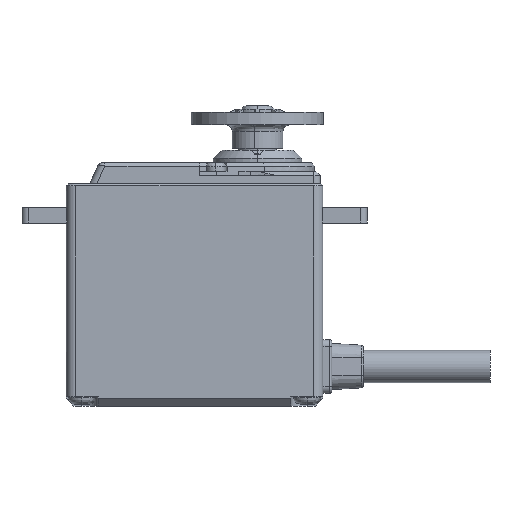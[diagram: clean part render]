
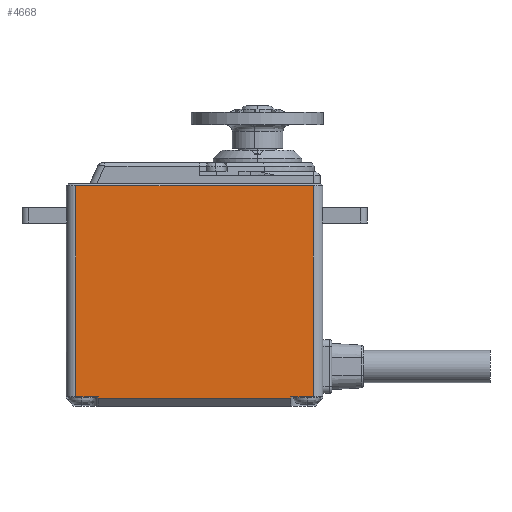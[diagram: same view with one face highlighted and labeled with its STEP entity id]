
A CAD part, left-side view. The second image highlights one B-rep face of the part: STEP entity #4668.
In plain terms, the highlighted planar face has unit normal (-1, 0, 0).
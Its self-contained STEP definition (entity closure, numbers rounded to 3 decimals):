
#241 = VECTOR ( 'NONE', #7130, 1000. ) ;
#415 = DIRECTION ( 'NONE',  ( 0., 0., -1. ) ) ;
#814 = VERTEX_POINT ( 'NONE', #981 ) ;
#897 = CARTESIAN_POINT ( 'NONE',  ( -10.5, 25.15, -38.4 ) ) ;
#981 = CARTESIAN_POINT ( 'NONE',  ( -10.5, -8.8, -36.9 ) ) ;
#1139 = VECTOR ( 'NONE', #415, 1000. ) ;
#1413 = LINE ( 'NONE', #3303, #1139 ) ;
#1519 = ORIENTED_EDGE ( 'NONE', *, *, #1647, .T. ) ;
#1574 = ORIENTED_EDGE ( 'NONE', *, *, #2165, .T. ) ;
#1647 = EDGE_CURVE ( 'NONE', #5285, #6346, #6993, .T. ) ;
#1729 = EDGE_LOOP ( 'NONE', ( #9491, #12442, #9258, #4271, #9172, #5100, #1574, #1519 ) ) ;
#1749 = DIRECTION ( 'NONE',  ( 0., -1., 0. ) ) ;
#1783 = VERTEX_POINT ( 'NONE', #4185 ) ;
#2165 = EDGE_CURVE ( 'NONE', #814, #5285, #6575, .T. ) ;
#2615 = VERTEX_POINT ( 'NONE', #11436 ) ;
#3024 = LINE ( 'NONE', #5090, #8985 ) ;
#3303 = CARTESIAN_POINT ( 'NONE',  ( -10.5, 28.7, -3.6 ) ) ;
#3623 = LINE ( 'NONE', #4748, #6451 ) ;
#4185 = CARTESIAN_POINT ( 'NONE',  ( -10.5, 25.15, -37.2 ) ) ;
#4271 = ORIENTED_EDGE ( 'NONE', *, *, #8558, .T. ) ;
#4619 = LINE ( 'NONE', #6496, #4962 ) ;
#4668 = ADVANCED_FACE ( 'NONE', ( #4700 ), #8580, .T. ) ;
#4700 = FACE_OUTER_BOUND ( 'NONE', #1729, .T. ) ;
#4748 = CARTESIAN_POINT ( 'NONE',  ( -10.5, -8.8, -36.9 ) ) ;
#4962 = VECTOR ( 'NONE', #5555, 1000. ) ;
#5090 = CARTESIAN_POINT ( 'NONE',  ( -10.5, -8.8, -36.9 ) ) ;
#5100 = ORIENTED_EDGE ( 'NONE', *, *, #9849, .T. ) ;
#5104 = LINE ( 'NONE', #897, #7758 ) ;
#5285 = VERTEX_POINT ( 'NONE', #9816 ) ;
#5418 = CARTESIAN_POINT ( 'NONE',  ( -10.5, -5.25, -37.2 ) ) ;
#5555 = DIRECTION ( 'NONE',  ( 0., -1., 0. ) ) ;
#5969 = CARTESIAN_POINT ( 'NONE',  ( -10.5, -5.25, -36.9 ) ) ;
#6002 = CARTESIAN_POINT ( 'NONE',  ( -10.5, -8.8, -3.6 ) ) ;
#6346 = VERTEX_POINT ( 'NONE', #7478 ) ;
#6451 = VECTOR ( 'NONE', #9704, 1000. ) ;
#6496 = CARTESIAN_POINT ( 'NONE',  ( -10.5, -8.8, -37.2 ) ) ;
#6575 = LINE ( 'NONE', #10524, #12659 ) ;
#6714 = DIRECTION ( 'NONE',  ( -1., 0., 0. ) ) ;
#6993 = LINE ( 'NONE', #6002, #241 ) ;
#7130 = DIRECTION ( 'NONE',  ( 0., 1., 0. ) ) ;
#7478 = CARTESIAN_POINT ( 'NONE',  ( -10.5, 28.7, -3.6 ) ) ;
#7587 = AXIS2_PLACEMENT_3D ( 'NONE', #11652, #6714, #12912 ) ;
#7758 = VECTOR ( 'NONE', #8047, 1000. ) ;
#8047 = DIRECTION ( 'NONE',  ( 0., 0., -1. ) ) ;
#8234 = LINE ( 'NONE', #8299, #8774 ) ;
#8299 = CARTESIAN_POINT ( 'NONE',  ( -10.5, -5.25, -38.4 ) ) ;
#8558 = EDGE_CURVE ( 'NONE', #1783, #12380, #4619, .T. ) ;
#8580 = PLANE ( 'NONE',  #7587 ) ;
#8774 = VECTOR ( 'NONE', #9428, 1000. ) ;
#8985 = VECTOR ( 'NONE', #1749, 1000. ) ;
#9172 = ORIENTED_EDGE ( 'NONE', *, *, #9962, .T. ) ;
#9258 = ORIENTED_EDGE ( 'NONE', *, *, #9440, .T. ) ;
#9379 = VERTEX_POINT ( 'NONE', #13178 ) ;
#9428 = DIRECTION ( 'NONE',  ( 0., 0., 1. ) ) ;
#9440 = EDGE_CURVE ( 'NONE', #9379, #1783, #5104, .T. ) ;
#9491 = ORIENTED_EDGE ( 'NONE', *, *, #12033, .T. ) ;
#9704 = DIRECTION ( 'NONE',  ( 0., -1., 0. ) ) ;
#9816 = CARTESIAN_POINT ( 'NONE',  ( -10.5, -8.8, -3.6 ) ) ;
#9849 = EDGE_CURVE ( 'NONE', #11834, #814, #3024, .T. ) ;
#9962 = EDGE_CURVE ( 'NONE', #12380, #11834, #8234, .T. ) ;
#10524 = CARTESIAN_POINT ( 'NONE',  ( -10.5, -8.8, -3.6 ) ) ;
#10955 = EDGE_CURVE ( 'NONE', #2615, #9379, #3623, .T. ) ;
#11436 = CARTESIAN_POINT ( 'NONE',  ( -10.5, 28.7, -36.9 ) ) ;
#11652 = CARTESIAN_POINT ( 'NONE',  ( -10.5, -8.8, -3.6 ) ) ;
#11716 = DIRECTION ( 'NONE',  ( 0., 0., 1. ) ) ;
#11834 = VERTEX_POINT ( 'NONE', #5969 ) ;
#12033 = EDGE_CURVE ( 'NONE', #6346, #2615, #1413, .T. ) ;
#12380 = VERTEX_POINT ( 'NONE', #5418 ) ;
#12442 = ORIENTED_EDGE ( 'NONE', *, *, #10955, .T. ) ;
#12659 = VECTOR ( 'NONE', #11716, 1000. ) ;
#12912 = DIRECTION ( 'NONE',  ( 0., 0., 1. ) ) ;
#13178 = CARTESIAN_POINT ( 'NONE',  ( -10.5, 25.15, -36.9 ) ) ;
